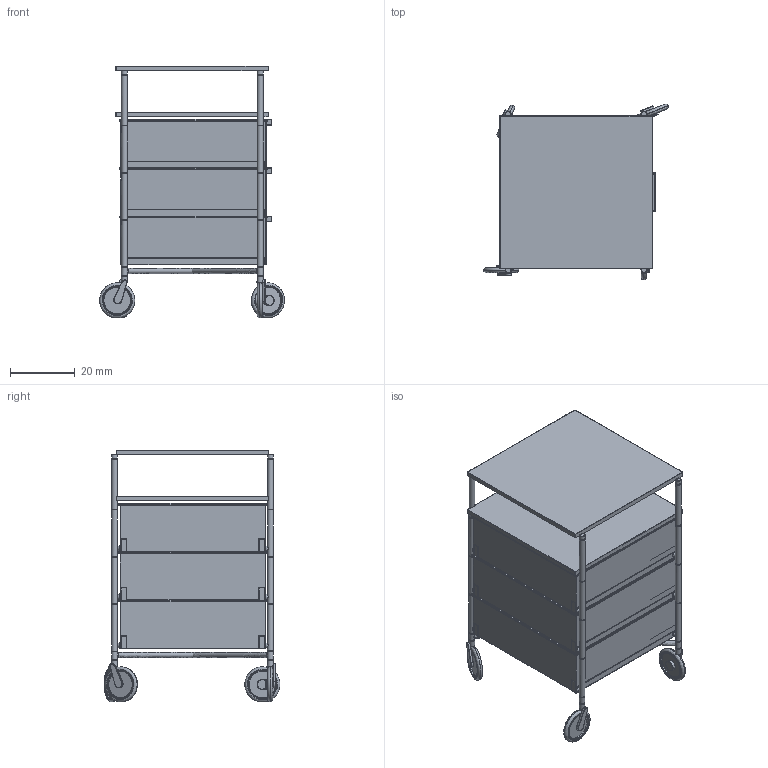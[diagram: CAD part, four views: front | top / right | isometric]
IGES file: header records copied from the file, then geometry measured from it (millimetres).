
Global section: file name: D:\3ddFactory\3D_Kartell\Ex-novo_3dd\MOBIL\2020\Mobil_3d_Antonio Citterio_Kartell.igs; native system: Rhinoceros ( Mar 10 2014 ); preprocessor: Trout Lake IGES 012 Mar 10 2014; date: 180215.131639; units: millimetre
Bounding box: 57.24 x 54.49 x 78.07 mm (x, y, z)
Surface area: 46545.8 mm2 (no closed solid volume)
Topology: 0 solids, 0 shells, 1248 faces, 9581 edges, 9348 vertices
Faces by surface type: bspline 1248
